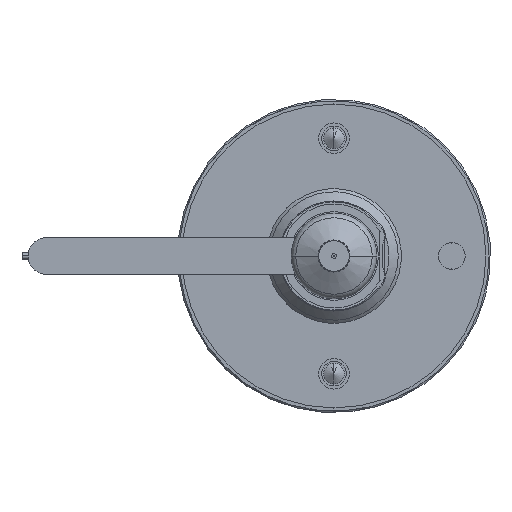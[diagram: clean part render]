
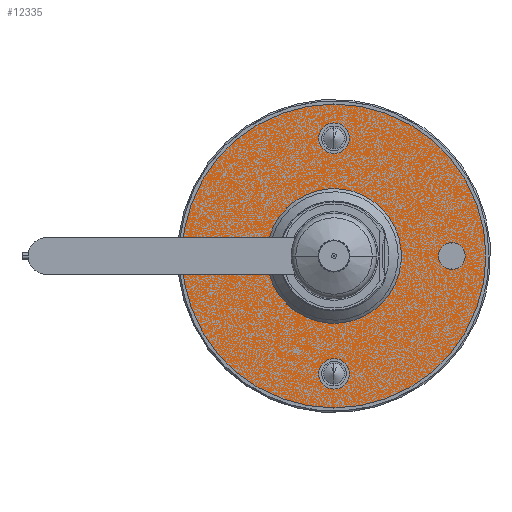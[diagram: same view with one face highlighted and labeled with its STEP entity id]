
A CAD part, front view. The second image highlights one B-rep face of the part: STEP entity #12335.
In plain terms, the highlighted planar face has unit normal (0, -1, 0) as drawn and (0, 0, -1) by its records, which use the part's own axes.
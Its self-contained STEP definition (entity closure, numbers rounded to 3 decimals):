
#601 = DIRECTION ( 'NONE',  ( 0., 0., 1. ) ) ;
#946 = VERTEX_POINT ( 'NONE', #18776 ) ;
#1073 = EDGE_LOOP ( 'NONE', ( #8735, #24129 ) ) ;
#1174 = CARTESIAN_POINT ( 'NONE',  ( 4.4, -38.5, 0. ) ) ;
#1458 = AXIS2_PLACEMENT_3D ( 'NONE', #12831, #29412, #29569 ) ;
#2262 = DIRECTION ( 'NONE',  ( -1., 0., 0. ) ) ;
#2340 = CARTESIAN_POINT ( 'NONE',  ( 0., 38.5, 0. ) ) ;
#2528 = VERTEX_POINT ( 'NONE', #24162 ) ;
#2958 = CARTESIAN_POINT ( 'NONE',  ( 4.4, 38.5, 0. ) ) ;
#3150 = EDGE_CURVE ( 'NONE', #19813, #16937, #9821, .T. ) ;
#3158 = CARTESIAN_POINT ( 'NONE',  ( 38.5, 0., 0. ) ) ;
#3456 = FACE_BOUND ( 'NONE', #19782, .T. ) ;
#3755 = ORIENTED_EDGE ( 'NONE', *, *, #25478, .T. ) ;
#3849 = DIRECTION ( 'NONE',  ( 0., 0., 1. ) ) ;
#4822 = EDGE_CURVE ( 'NONE', #26840, #28098, #12329, .T. ) ;
#4841 = DIRECTION ( 'NONE',  ( 1., 0., 0. ) ) ;
#4956 = DIRECTION ( 'NONE',  ( -1., 0., 0. ) ) ;
#5065 = AXIS2_PLACEMENT_3D ( 'NONE', #2340, #9262, #4956 ) ;
#5522 = AXIS2_PLACEMENT_3D ( 'NONE', #3158, #29147, #21591 ) ;
#5695 = CARTESIAN_POINT ( 'NONE',  ( 0., 38.5, 0. ) ) ;
#5923 = ORIENTED_EDGE ( 'NONE', *, *, #23578, .T. ) ;
#5942 = CIRCLE ( 'NONE', #11850, 4.4 ) ;
#6258 = ORIENTED_EDGE ( 'NONE', *, *, #13647, .T. ) ;
#6319 = EDGE_CURVE ( 'NONE', #946, #26482, #8380, .T. ) ;
#6374 = EDGE_CURVE ( 'NONE', #11214, #17923, #5942, .T. ) ;
#6466 = AXIS2_PLACEMENT_3D ( 'NONE', #25705, #27992, #21363 ) ;
#6733 = CIRCLE ( 'NONE', #22430, 4.4 ) ;
#7453 = ORIENTED_EDGE ( 'NONE', *, *, #16139, .T. ) ;
#7698 = DIRECTION ( 'NONE',  ( -1., 0., 0. ) ) ;
#7847 = DIRECTION ( 'NONE',  ( -1., 0., 0. ) ) ;
#8237 = FACE_BOUND ( 'NONE', #29168, .T. ) ;
#8380 = CIRCLE ( 'NONE', #23113, 5. ) ;
#8735 = ORIENTED_EDGE ( 'NONE', *, *, #6374, .T. ) ;
#8981 = AXIS2_PLACEMENT_3D ( 'NONE', #15169, #17604, #26850 ) ;
#9262 = DIRECTION ( 'NONE',  ( 0., 0., 1. ) ) ;
#9821 = CIRCLE ( 'NONE', #1458, 5. ) ;
#9889 = EDGE_CURVE ( 'NONE', #26482, #946, #27615, .T. ) ;
#10007 = CIRCLE ( 'NONE', #20708, 16.5 ) ;
#10407 = CIRCLE ( 'NONE', #6466, 49.675 ) ;
#10589 = VERTEX_POINT ( 'NONE', #13349 ) ;
#11005 = CIRCLE ( 'NONE', #21280, 16.5 ) ;
#11214 = VERTEX_POINT ( 'NONE', #19218 ) ;
#11850 = AXIS2_PLACEMENT_3D ( 'NONE', #5695, #601, #7698 ) ;
#11939 = EDGE_LOOP ( 'NONE', ( #24535, #20204 ) ) ;
#12091 = CARTESIAN_POINT ( 'NONE',  ( 0., 0., 0. ) ) ;
#12188 = DIRECTION ( 'NONE',  ( 0., 0., 1. ) ) ;
#12237 = EDGE_CURVE ( 'NONE', #17923, #11214, #21240, .T. ) ;
#12329 = CIRCLE ( 'NONE', #29490, 4.4 ) ;
#12335 = ADVANCED_FACE ( 'NONE', ( #12419, #3456, #24836, #19916, #21753, #8237 ), #22208, .T. ) ;
#12419 = FACE_OUTER_BOUND ( 'NONE', #15791, .T. ) ;
#12831 = CARTESIAN_POINT ( 'NONE',  ( -38.5, 0., 0. ) ) ;
#12880 = ORIENTED_EDGE ( 'NONE', *, *, #3150, .T. ) ;
#13349 = CARTESIAN_POINT ( 'NONE',  ( -49.675, 0., 0. ) ) ;
#13587 = CARTESIAN_POINT ( 'NONE',  ( -33.5, 0., 0. ) ) ;
#13647 = EDGE_CURVE ( 'NONE', #21889, #2528, #11005, .T. ) ;
#14068 = DIRECTION ( 'NONE',  ( 0., 0., 1. ) ) ;
#14576 = AXIS2_PLACEMENT_3D ( 'NONE', #19214, #12188, #28604 ) ;
#15169 = CARTESIAN_POINT ( 'NONE',  ( 16.5, 0., 0. ) ) ;
#15791 = EDGE_LOOP ( 'NONE', ( #3755, #7453 ) ) ;
#15798 = CARTESIAN_POINT ( 'NONE',  ( -4.4, -38.5, 0. ) ) ;
#16139 = EDGE_CURVE ( 'NONE', #10589, #22595, #30191, .T. ) ;
#16927 = AXIS2_PLACEMENT_3D ( 'NONE', #19053, #28296, #7847 ) ;
#16937 = VERTEX_POINT ( 'NONE', #26193 ) ;
#17604 = DIRECTION ( 'NONE',  ( 0., 0., -1. ) ) ;
#17647 = DIRECTION ( 'NONE',  ( 0., 0., 1. ) ) ;
#17923 = VERTEX_POINT ( 'NONE', #2958 ) ;
#18567 = CARTESIAN_POINT ( 'NONE',  ( 43.5, 0., 0. ) ) ;
#18776 = CARTESIAN_POINT ( 'NONE',  ( 33.5, 0., 0. ) ) ;
#19053 = CARTESIAN_POINT ( 'NONE',  ( 0., 0., 0. ) ) ;
#19214 = CARTESIAN_POINT ( 'NONE',  ( -38.5, 0., 0. ) ) ;
#19218 = CARTESIAN_POINT ( 'NONE',  ( -4.4, 38.5, 0. ) ) ;
#19782 = EDGE_LOOP ( 'NONE', ( #24974, #21744 ) ) ;
#19813 = VERTEX_POINT ( 'NONE', #13587 ) ;
#19851 = CARTESIAN_POINT ( 'NONE',  ( 0., -38.5, 0. ) ) ;
#19916 = FACE_BOUND ( 'NONE', #11939, .T. ) ;
#20204 = ORIENTED_EDGE ( 'NONE', *, *, #9889, .T. ) ;
#20708 = AXIS2_PLACEMENT_3D ( 'NONE', #12091, #14068, #4841 ) ;
#21209 = DIRECTION ( 'NONE',  ( 0., 0., 1. ) ) ;
#21240 = CIRCLE ( 'NONE', #5065, 4.4 ) ;
#21280 = AXIS2_PLACEMENT_3D ( 'NONE', #29948, #17647, #24876 ) ;
#21359 = DIRECTION ( 'NONE',  ( -1., 0., 0. ) ) ;
#21363 = DIRECTION ( 'NONE',  ( -1., 0., 0. ) ) ;
#21591 = DIRECTION ( 'NONE',  ( -1., 0., 0. ) ) ;
#21744 = ORIENTED_EDGE ( 'NONE', *, *, #30206, .T. ) ;
#21753 = FACE_BOUND ( 'NONE', #26927, .T. ) ;
#21889 = VERTEX_POINT ( 'NONE', #29774 ) ;
#22087 = DIRECTION ( 'NONE',  ( 0., 0., 1. ) ) ;
#22208 = PLANE ( 'NONE',  #8981 ) ;
#22430 = AXIS2_PLACEMENT_3D ( 'NONE', #27337, #22087, #2262 ) ;
#22595 = VERTEX_POINT ( 'NONE', #25604 ) ;
#23113 = AXIS2_PLACEMENT_3D ( 'NONE', #26153, #21209, #21359 ) ;
#23578 = EDGE_CURVE ( 'NONE', #2528, #21889, #10007, .T. ) ;
#24129 = ORIENTED_EDGE ( 'NONE', *, *, #12237, .T. ) ;
#24162 = CARTESIAN_POINT ( 'NONE',  ( -16.5, 0., 0. ) ) ;
#24535 = ORIENTED_EDGE ( 'NONE', *, *, #6319, .T. ) ;
#24836 = FACE_BOUND ( 'NONE', #1073, .T. ) ;
#24876 = DIRECTION ( 'NONE',  ( 1., 0., 0. ) ) ;
#24974 = ORIENTED_EDGE ( 'NONE', *, *, #4822, .T. ) ;
#25478 = EDGE_CURVE ( 'NONE', #22595, #10589, #10407, .T. ) ;
#25604 = CARTESIAN_POINT ( 'NONE',  ( 49.675, 0., 0. ) ) ;
#25705 = CARTESIAN_POINT ( 'NONE',  ( 0., 0., 0. ) ) ;
#26153 = CARTESIAN_POINT ( 'NONE',  ( 38.5, 0., 0. ) ) ;
#26193 = CARTESIAN_POINT ( 'NONE',  ( -43.5, 0., 0. ) ) ;
#26482 = VERTEX_POINT ( 'NONE', #18567 ) ;
#26840 = VERTEX_POINT ( 'NONE', #15798 ) ;
#26845 = CIRCLE ( 'NONE', #14576, 5. ) ;
#26850 = DIRECTION ( 'NONE',  ( -1., 0., 0. ) ) ;
#26927 = EDGE_LOOP ( 'NONE', ( #27762, #12880 ) ) ;
#27337 = CARTESIAN_POINT ( 'NONE',  ( 0., -38.5, 0. ) ) ;
#27615 = CIRCLE ( 'NONE', #5522, 5. ) ;
#27762 = ORIENTED_EDGE ( 'NONE', *, *, #28866, .T. ) ;
#27992 = DIRECTION ( 'NONE',  ( 0., 0., -1. ) ) ;
#28098 = VERTEX_POINT ( 'NONE', #1174 ) ;
#28296 = DIRECTION ( 'NONE',  ( 0., 0., -1. ) ) ;
#28604 = DIRECTION ( 'NONE',  ( -1., 0., 0. ) ) ;
#28866 = EDGE_CURVE ( 'NONE', #16937, #19813, #26845, .T. ) ;
#29147 = DIRECTION ( 'NONE',  ( 0., 0., 1. ) ) ;
#29168 = EDGE_LOOP ( 'NONE', ( #6258, #5923 ) ) ;
#29388 = DIRECTION ( 'NONE',  ( -1., 0., 0. ) ) ;
#29412 = DIRECTION ( 'NONE',  ( 0., 0., 1. ) ) ;
#29490 = AXIS2_PLACEMENT_3D ( 'NONE', #19851, #3849, #29388 ) ;
#29569 = DIRECTION ( 'NONE',  ( -1., 0., 0. ) ) ;
#29774 = CARTESIAN_POINT ( 'NONE',  ( 16.5, 0., 0. ) ) ;
#29948 = CARTESIAN_POINT ( 'NONE',  ( 0., 0., 0. ) ) ;
#30191 = CIRCLE ( 'NONE', #16927, 49.675 ) ;
#30206 = EDGE_CURVE ( 'NONE', #28098, #26840, #6733, .T. ) ;
